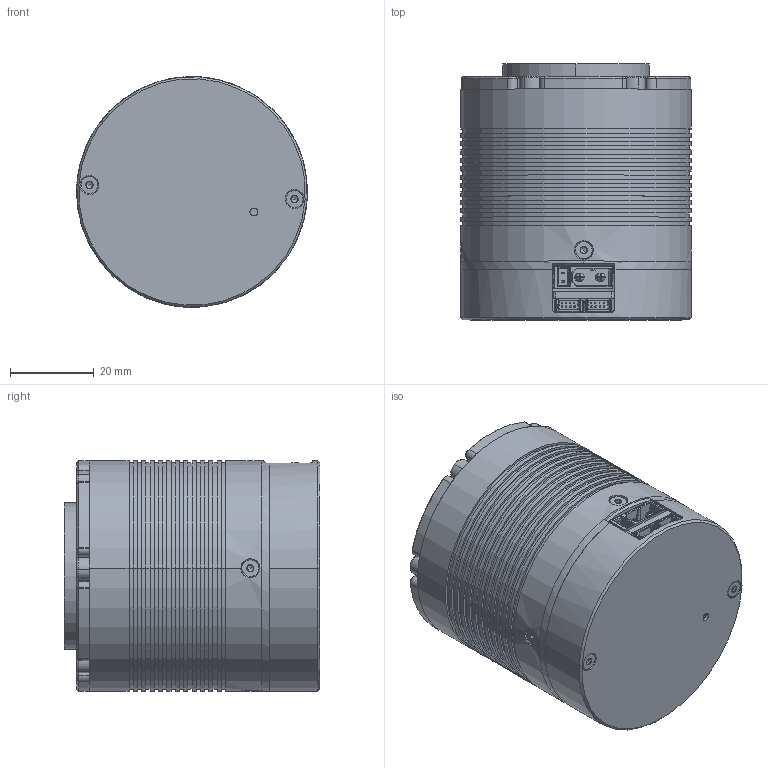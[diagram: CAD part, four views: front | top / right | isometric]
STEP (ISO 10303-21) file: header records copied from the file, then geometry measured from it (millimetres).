
FILE_DESCRIPTION (( 'STEP AP203' ), '1' );
FILE_NAME ('RMD-X4-P36-36 外形图.STEP', '2026-09-20T07:05:30', ( '微软用户' ), ( '微软中国' ), 'SwSTEP 2.0', 'SolidWorks 2020', '' );
FILE_SCHEMA (( 'CONFIG_CONTROL_DESIGN' ));
Length unit declared in the file: millimetre
Products named in the file (12): GB_FASTENER_SCREWS_HSHCS M3X12-C_GB_FASTENER_SCREWS_HSHCS M3X12-C.STEP; 8MT.013.030.STEP; RMD-X4-P36-36 俋倛芞; XMT.105.027.STEP; XMT.105.003.STEP; 8MT.034.008.STEP; XMT.105.011_Default________.STEP; XMT.105.019.STEP; X4 V1.1_奻啣 2026-09-18; X4 V1.1_狟啣 2026-09-18; M2X4.STEP; M2X12.STEP
Assembly tree (22 placements, depth 2):
  RMD-X4-P36-36 俋倛芞
    8MT.034.008.STEP
    XMT.105.003.STEP
    XMT.105.019.STEP
    XMT.105.027.STEP
    8MT.013.030.STEP
    XMT.105.011_Default________.STEP
    GB_FASTENER_SCREWS_HSHCS M3X12-C_GB_FASTENER_SCREWS_HSHCS M3X12-C.STEP  x6
    M2X12.STEP  x2
    M2X4.STEP  x6
    X4 V1.1_奻啣 2026-09-18
    X4 V1.1_狟啣 2026-09-18
Bounding box: 55 x 61 x 55 mm (x, y, z)
Volume: 38497.2 mm3; surface area: 50968.9 mm2
Topology: 55 solids, 55 shells, 3259 faces, 8616 edges, 5543 vertices
Faces by surface type: cylinder 1329, plane 1307, bspline 338, cone 261, torus 16, sphere 8
Entity records: 99939 total; most frequent: CARTESIAN_POINT 22373, ORIENTED_EDGE 15904, DIRECTION 15167, EDGE_CURVE 7952, AXIS2_PLACEMENT_3D 5400, VERTEX_POINT 5204, LINE 4367, VECTOR 4367
